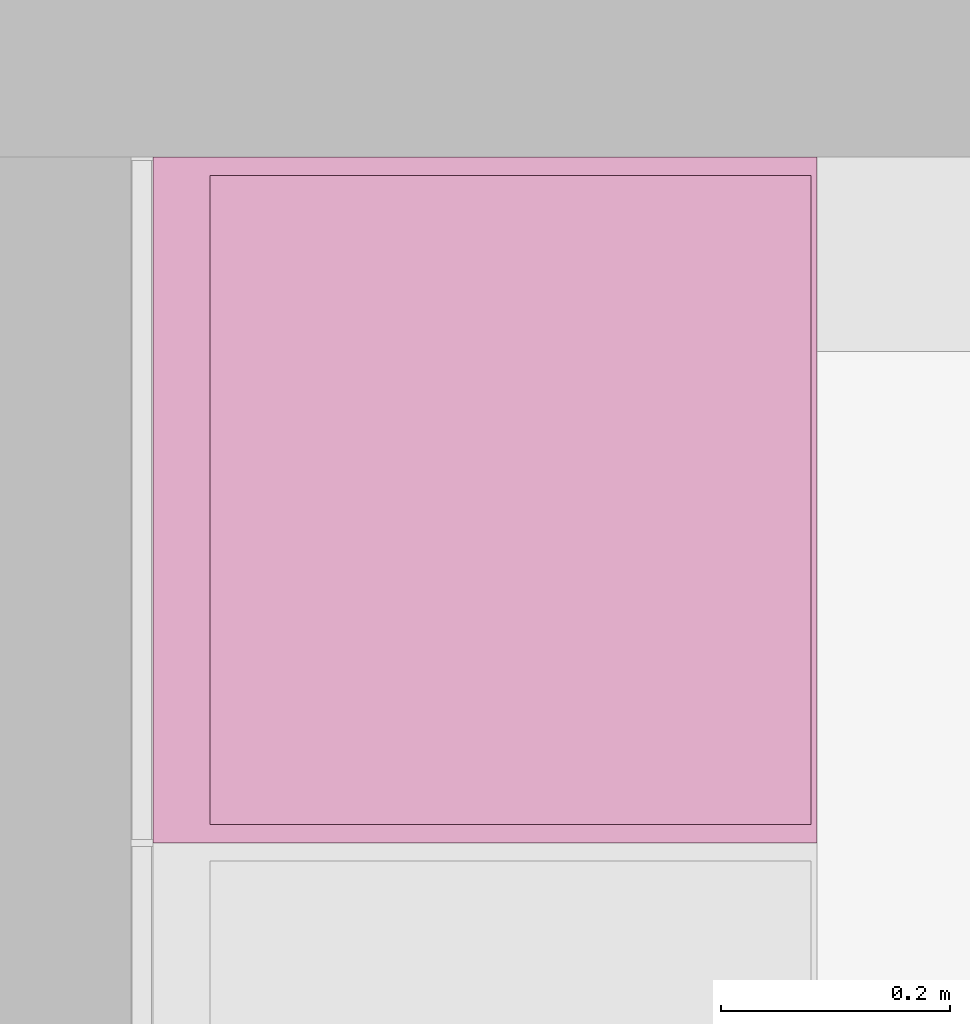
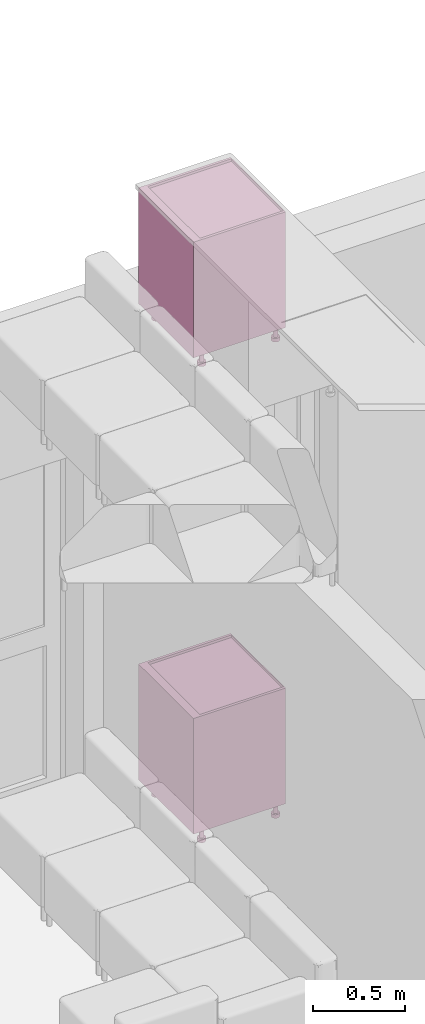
# One storey, part 83 of 125: 2 furnishings.
"""IFC2X3 building model written with IfcOpenShell, lengths in millimetres."""

from ifc_helpers import new_model, entity, si_unit, converted_unit, direction, frame, origin, place, context, subcontext, project, spatial, faceted_brep, source, transform, mapped, material, type_object, type_shapes, element, save


model = new_model("IFC2X3")

# Units and contexts
model_context = context("Model", 3, precision=0.01, world=origin(), true_north=direction((6.123233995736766e-17, 1.0)))
plan_context = context("Plan", 3, precision=0.01, world=origin(), true_north=direction((6.123233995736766e-17, 1.0)))
body_context = subcontext(model_context, "Body", "Model", "MODEL_VIEW")
ifc_project = project(units=[si_unit("LENGTHUNIT", "METRE", prefix="MILLI"), converted_unit("PLANEANGLEUNIT", "DEGREE", entity("IfcPlaneAngleMeasure", 0.017453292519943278), si_unit("PLANEANGLEUNIT", "RADIAN"), dimensions=[0, 0, 0, 0, 0, 0, 0]), si_unit("AREAUNIT", "SQUARE_METRE")], contexts=[model_context, plan_context])

# Site, building, storey, space
site_placement = place(None, origin())
site = spatial("IfcSite", under=ifc_project, at=site_placement, Name="Default", CompositionType="ELEMENT")
building_placement = place(site_placement, origin())
building = spatial("IfcBuilding", under=site, at=building_placement, CompositionType="ELEMENT")
storey_placement = place(building_placement, frame((0.0, 0.0, 3125.0)))
storey = spatial("IfcBuildingStorey", under=building, at=storey_placement, Name="2K", CompositionType="ELEMENT", Elevation=3125.0)
space_placement = place(storey_placement, origin())
space = spatial("IfcSpace", under=storey, at=space_placement, Name="2-3.2", CompositionType="ELEMENT", InteriorOrExteriorSpace="INTERNAL")

# Furnishings
ifc_material = material(Name="<Unnamed>")
furniture_type = type_object("IfcFurnitureType", Name="HR_Casework_Kitchen_Generic_Appliance_v1:Fridge", AssemblyPlace="NOTDEFINED", material=ifc_material)
shared_shape = source(origin(), body_context, "Body", "Brep", [
    faceted_brep([(305.7003264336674, -585.7846096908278, -3101.0), (310.6708891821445, -581.9705627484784, -3101.0), (300.70032643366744, -577.1243556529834, -3101.0), (297.32379306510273, -578.5229615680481, -3101.0), (299.91198351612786, -588.1822198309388, -3101.0), (303.59982137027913, -574.8994949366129, -3101.0), (314.4849361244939, -577.0, -3101.0), (305.82468208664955, -572.0, -3101.0), (307.2232880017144, -568.6234666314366, -3101.0), (316.8825462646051, -571.2116570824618, -3101.0), (307.70032643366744, -565.0, -3101.0), (317.7003264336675, -565.0, -3101.0), (307.2232880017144, -561.3765333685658, -3101.0), (316.88254626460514, -558.7883429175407, -3101.0), (305.82468208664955, -558.0, -3101.0), (314.484936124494, -553.0, -3101.0), (303.59982137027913, -555.1005050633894, -3101.0), (310.67088918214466, -548.0294372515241, -3101.0), (300.70032643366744, -552.875644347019, -3101.0), (305.7003264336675, -544.2153903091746, -3101.0), (297.32379306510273, -551.4770384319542, -3101.0), (299.91198351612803, -541.8177801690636, -3101.0), (293.7003264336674, -551.0, -3101.0), (293.70032643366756, -541.0, -3101.0), (290.07685980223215, -551.4770384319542, -3101.0), (287.488669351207, -541.8177801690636, -3101.0), (286.70032643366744, -552.875644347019, -3101.0), (281.7003264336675, -544.2153903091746, -3101.0), (283.80083149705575, -555.1005050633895, -3101.0), (276.7297636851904, -548.029437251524, -3101.0), (281.5759707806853, -558.0, -3101.0), (272.91571674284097, -553.0, -3101.0), (270.51810660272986, -558.7883429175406, -3101.0), (280.1773648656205, -561.3765333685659, -3101.0), (269.7003264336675, -565.0, -3101.0), (279.7003264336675, -565.0, -3101.0), (270.51810660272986, -571.2116570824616, -3101.0), (280.1773648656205, -568.6234666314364, -3101.0), (272.9157167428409, -577.0, -3101.0), (281.57597078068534, -572.0, -3101.0), (276.7297636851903, -581.9705627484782, -3101.0), (283.80083149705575, -574.8994949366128, -3101.0), (281.70032643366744, -585.7846096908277, -3101.0), (286.70032643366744, -577.1243556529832, -3101.0), (287.4886693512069, -588.1822198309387, -3101.0), (290.07685980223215, -578.5229615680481, -3101.0), (293.7003264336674, -589.0, -3101.0), (293.70032643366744, -579.0, -3101.0), (299.91198351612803, -541.8177801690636, -3125.0), (305.7003264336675, -544.2153903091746, -3125.0), (310.67088918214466, -548.0294372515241, -3125.0), (314.484936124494, -553.0, -3125.0), (316.88254626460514, -558.7883429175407, -3125.0), (317.7003264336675, -565.0, -3125.0), (316.8825462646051, -571.2116570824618, -3125.0), (314.4849361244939, -577.0, -3125.0), (310.6708891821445, -581.9705627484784, -3125.0), (305.7003264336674, -585.7846096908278, -3125.0), (299.91198351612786, -588.1822198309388, -3125.0), (293.7003264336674, -589.0, -3125.0), (287.4886693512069, -588.1822198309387, -3125.0), (281.70032643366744, -585.7846096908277, -3125.0), (276.7297636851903, -581.9705627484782, -3125.0), (272.9157167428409, -577.0, -3125.0), (270.51810660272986, -571.2116570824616, -3125.0), (269.7003264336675, -565.0, -3125.0), (270.51810660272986, -558.7883429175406, -3125.0), (272.91571674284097, -553.0, -3125.0), (276.7297636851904, -548.029437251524, -3125.0), (281.7003264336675, -544.2153903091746, -3125.0), (287.488669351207, -541.8177801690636, -3125.0), (293.70032643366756, -541.0, -3125.0), (297.32379306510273, -578.5229615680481, -3025.0), (300.70032643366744, -577.1243556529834, -3025.0), (303.59982137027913, -574.8994949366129, -3025.0), (305.8246820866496, -572.0, -3025.0), (307.2232880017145, -568.6234666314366, -3025.0), (307.70032643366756, -565.0, -3025.0), (307.2232880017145, -561.3765333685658, -3025.0), (305.8246820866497, -558.0, -3025.0), (303.5998213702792, -555.1005050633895, -3025.0), (300.70032643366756, -552.875644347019, -3025.0), (297.32379306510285, -551.4770384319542, -3025.0), (293.70032643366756, -551.0, -3025.0), (290.07685980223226, -551.4770384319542, -3025.0), (286.70032643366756, -552.875644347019, -3025.0), (283.80083149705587, -555.1005050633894, -3025.0), (281.5759707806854, -558.0, -3025.0), (280.1773648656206, -561.3765333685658, -3025.0), (279.70032643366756, -565.0, -3025.0), (280.1773648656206, -568.6234666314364, -3025.0), (281.5759707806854, -572.0, -3025.0), (283.8008314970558, -574.8994949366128, -3025.0), (286.7003264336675, -577.1243556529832, -3025.0), (290.07685980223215, -578.5229615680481, -3025.0), (293.70032643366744, -579.0, -3025.0)], [[[0, 1, 2]], [[0, 2, 3]], [[3, 4, 0]], [[2, 1, 5]], [[6, 5, 1]], [[7, 5, 6]], [[8, 7, 6]], [[8, 6, 9]], [[8, 9, 10]], [[10, 9, 11]], [[12, 10, 11]], [[12, 11, 13]], [[14, 12, 13]], [[14, 13, 15]], [[16, 14, 15]], [[15, 17, 16]], [[17, 18, 16]], [[18, 17, 19]], [[18, 19, 20]], [[21, 20, 19]], [[20, 21, 22]], [[22, 21, 23]], [[23, 24, 22]], [[24, 23, 25]], [[24, 25, 26]], [[27, 26, 25]], [[27, 28, 26]], [[27, 29, 28]], [[30, 28, 29]], [[31, 30, 29]], [[32, 30, 31]], [[33, 30, 32]], [[33, 32, 34]], [[34, 35, 33]], [[36, 35, 34]], [[36, 37, 35]], [[37, 36, 38]], [[39, 37, 38]], [[39, 38, 40]], [[39, 40, 41]], [[40, 42, 41]], [[41, 42, 43]], [[43, 42, 44]], [[44, 45, 43]], [[46, 45, 44]], [[4, 47, 46]], [[45, 46, 47]], [[4, 3, 47]], [[48, 49, 50, 51, 52, 53, 54, 55, 56, 57, 58, 59, 60, 61, 62, 63, 64, 65, 66, 67, 68, 69, 70, 71]], [[64, 36, 34, 65]], [[63, 38, 36, 64]], [[42, 40, 62, 61]], [[63, 62, 40, 38]], [[44, 42, 61, 60]], [[46, 44, 60, 59]], [[58, 4, 46, 59]], [[57, 0, 4, 58]], [[54, 53, 11, 9]], [[1, 0, 57, 56]], [[6, 55, 54, 9]], [[6, 1, 56, 55]], [[52, 13, 11, 53]], [[51, 15, 13, 52]], [[19, 17, 50, 49]], [[51, 50, 17, 15]], [[21, 19, 49, 48]], [[23, 21, 48, 71]], [[27, 69, 68, 29]], [[31, 67, 66, 32]], [[68, 67, 31, 29]], [[32, 66, 65, 34]], [[25, 70, 69, 27]], [[70, 25, 23, 71]], [[72, 73, 74, 75, 76, 77, 78, 79, 80, 81, 82, 83, 84, 85, 86, 87, 88, 89, 90, 91, 92, 93, 94, 95]], [[37, 39, 91, 90]], [[35, 37, 90, 89]], [[43, 45, 94, 93]], [[41, 43, 93, 92]], [[39, 41, 92, 91]], [[47, 95, 94, 45]], [[2, 5, 74, 73]], [[3, 2, 73, 72]], [[8, 10, 77, 76]], [[7, 8, 76, 75]], [[5, 7, 75, 74]], [[3, 72, 95, 47]], [[79, 78, 12, 14]], [[78, 77, 10, 12]], [[80, 16, 18, 81]], [[16, 80, 79, 14]], [[81, 18, 20, 82]], [[22, 83, 82, 20]], [[26, 28, 86, 85]], [[24, 26, 85, 84]], [[33, 35, 89, 88]], [[30, 33, 88, 87]], [[28, 30, 87, 86]], [[24, 84, 83, 22]]]),
    faceted_brep([(-192.29967356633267, -585.7846096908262, -3101.0), (-187.3291108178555, -581.9705627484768, -3101.0), (-197.29967356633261, -577.1243556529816, -3101.0), (-200.67620693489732, -578.5229615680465, -3101.0), (-198.08801648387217, -588.1822198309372, -3101.0), (-194.40017862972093, -574.8994949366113, -3101.0), (-183.51506387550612, -577.0, -3101.0), (-192.17531791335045, -572.0, -3101.0), (-190.77671199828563, -568.6234666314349, -3101.0), (-181.11745373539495, -571.2116570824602, -3101.0), (-190.29967356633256, -565.0, -3101.0), (-180.29967356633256, -565.0, -3101.0), (-190.77671199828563, -561.3765333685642, -3101.0), (-181.11745373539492, -558.788342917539, -3101.0), (-192.17531791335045, -558.0, -3101.0), (-183.515063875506, -553.0, -3101.0), (-194.40017862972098, -555.1005050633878, -3101.0), (-187.3291108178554, -548.0294372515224, -3101.0), (-197.29967356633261, -552.8756443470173, -3101.0), (-192.29967356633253, -544.215390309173, -3101.0), (-200.67620693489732, -551.4770384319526, -3101.0), (-198.08801648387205, -541.8177801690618, -3101.0), (-204.29967356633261, -551.0, -3101.0), (-204.29967356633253, -541.0, -3101.0), (-207.92314019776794, -551.4770384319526, -3101.0), (-210.51133064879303, -541.8177801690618, -3101.0), (-211.29967356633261, -552.8756443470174, -3101.0), (-216.29967356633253, -544.215390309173, -3101.0), (-214.19916850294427, -555.1005050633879, -3101.0), (-221.27023631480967, -548.0294372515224, -3101.0), (-216.42402921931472, -558.0, -3101.0), (-225.08428325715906, -553.0, -3101.0), (-227.48189339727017, -558.788342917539, -3101.0), (-217.8226351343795, -561.3765333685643, -3101.0), (-228.2996735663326, -565.0, -3101.0), (-218.29967356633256, -565.0, -3101.0), (-227.48189339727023, -571.21165708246, -3101.0), (-217.8226351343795, -568.6234666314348, -3101.0), (-225.08428325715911, -577.0, -3101.0), (-216.42402921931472, -572.0, -3101.0), (-221.27023631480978, -581.9705627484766, -3101.0), (-214.19916850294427, -574.8994949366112, -3101.0), (-216.29967356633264, -585.784609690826, -3101.0), (-211.29967356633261, -577.1243556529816, -3101.0), (-210.51133064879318, -588.1822198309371, -3101.0), (-207.9231401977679, -578.5229615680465, -3101.0), (-204.2996735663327, -589.0, -3101.0), (-204.29967356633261, -579.0, -3101.0), (-198.08801648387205, -541.8177801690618, -3125.0), (-192.29967356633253, -544.215390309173, -3125.0), (-187.3291108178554, -548.0294372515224, -3125.0), (-183.515063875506, -553.0, -3125.0), (-181.11745373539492, -558.788342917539, -3125.0), (-180.29967356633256, -565.0, -3125.0), (-181.11745373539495, -571.2116570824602, -3125.0), (-183.51506387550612, -577.0, -3125.0), (-187.3291108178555, -581.9705627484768, -3125.0), (-192.29967356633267, -585.7846096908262, -3125.0), (-198.08801648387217, -588.1822198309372, -3125.0), (-204.2996735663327, -589.0, -3125.0), (-210.51133064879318, -588.1822198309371, -3125.0), (-216.29967356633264, -585.784609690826, -3125.0), (-221.27023631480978, -581.9705627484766, -3125.0), (-225.08428325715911, -577.0, -3125.0), (-227.48189339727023, -571.21165708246, -3125.0), (-228.2996735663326, -565.0, -3125.0), (-227.48189339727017, -558.788342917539, -3125.0), (-225.08428325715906, -553.0, -3125.0), (-221.27023631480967, -548.0294372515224, -3125.0), (-216.29967356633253, -544.215390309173, -3125.0), (-210.51133064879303, -541.8177801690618, -3125.0), (-204.29967356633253, -541.0, -3125.0), (-200.67620693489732, -578.5229615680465, -3025.0), (-197.29967356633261, -577.1243556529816, -3025.0), (-194.40017862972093, -574.8994949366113, -3025.0), (-192.17531791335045, -572.0, -3025.0), (-190.77671199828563, -568.6234666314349, -3025.0), (-190.29967356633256, -565.0, -3025.0), (-190.77671199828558, -561.3765333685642, -3025.0), (-192.1753179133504, -558.0, -3025.0), (-194.40017862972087, -555.1005050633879, -3025.0), (-197.29967356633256, -552.8756443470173, -3025.0), (-200.67620693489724, -551.4770384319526, -3025.0), (-204.29967356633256, -551.0, -3025.0), (-207.92314019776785, -551.4770384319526, -3025.0), (-211.29967356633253, -552.8756443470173, -3025.0), (-214.1991685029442, -555.1005050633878, -3025.0), (-216.4240292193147, -558.0, -3025.0), (-217.8226351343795, -561.3765333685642, -3025.0), (-218.29967356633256, -565.0, -3025.0), (-217.8226351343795, -568.6234666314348, -3025.0), (-216.42402921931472, -572.0, -3025.0), (-214.19916850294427, -574.8994949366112, -3025.0), (-211.2996735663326, -577.1243556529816, -3025.0), (-207.9231401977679, -578.5229615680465, -3025.0), (-204.29967356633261, -579.0, -3025.0)], [[[0, 1, 2]], [[0, 2, 3]], [[3, 4, 0]], [[2, 1, 5]], [[6, 5, 1]], [[7, 5, 6]], [[8, 7, 6]], [[8, 6, 9]], [[8, 9, 10]], [[10, 9, 11]], [[12, 10, 11]], [[12, 11, 13]], [[14, 12, 13]], [[14, 13, 15]], [[16, 14, 15]], [[15, 17, 16]], [[17, 18, 16]], [[18, 17, 19]], [[18, 19, 20]], [[21, 20, 19]], [[20, 21, 22]], [[22, 21, 23]], [[23, 24, 22]], [[24, 23, 25]], [[24, 25, 26]], [[27, 26, 25]], [[27, 28, 26]], [[27, 29, 28]], [[30, 28, 29]], [[31, 30, 29]], [[32, 30, 31]], [[33, 30, 32]], [[33, 32, 34]], [[34, 35, 33]], [[36, 35, 34]], [[36, 37, 35]], [[37, 36, 38]], [[39, 37, 38]], [[39, 38, 40]], [[39, 40, 41]], [[40, 42, 41]], [[41, 42, 43]], [[43, 42, 44]], [[44, 45, 43]], [[46, 45, 44]], [[4, 47, 46]], [[45, 46, 47]], [[4, 3, 47]], [[48, 49, 50, 51, 52, 53, 54, 55, 56, 57, 58, 59, 60, 61, 62, 63, 64, 65, 66, 67, 68, 69, 70, 71]], [[64, 36, 34, 65]], [[63, 38, 36, 64]], [[42, 40, 62, 61]], [[63, 62, 40, 38]], [[44, 42, 61, 60]], [[46, 44, 60, 59]], [[58, 4, 46, 59]], [[57, 0, 4, 58]], [[54, 53, 11, 9]], [[1, 0, 57, 56]], [[6, 55, 54, 9]], [[6, 1, 56, 55]], [[52, 13, 11, 53]], [[51, 15, 13, 52]], [[19, 17, 50, 49]], [[51, 50, 17, 15]], [[21, 19, 49, 48]], [[23, 21, 48, 71]], [[27, 69, 68, 29]], [[31, 67, 66, 32]], [[68, 67, 31, 29]], [[32, 66, 65, 34]], [[25, 70, 69, 27]], [[70, 25, 23, 71]], [[72, 73, 74, 75, 76, 77, 78, 79, 80, 81, 82, 83, 84, 85, 86, 87, 88, 89, 90, 91, 92, 93, 94, 95]], [[37, 39, 91, 90]], [[35, 37, 90, 89]], [[43, 45, 94, 93]], [[41, 43, 93, 92]], [[39, 41, 92, 91]], [[47, 95, 94, 45]], [[2, 5, 74, 73]], [[3, 2, 73, 72]], [[8, 10, 77, 76]], [[7, 8, 76, 75]], [[5, 7, 75, 74]], [[3, 72, 95, 47]], [[79, 78, 12, 14]], [[78, 77, 10, 12]], [[80, 16, 18, 81]], [[16, 80, 79, 14]], [[81, 18, 20, 82]], [[22, 83, 82, 20]], [[26, 28, 86, 85]], [[24, 26, 85, 84]], [[33, 35, 89, 88]], [[30, 33, 88, 87]], [[28, 30, 87, 86]], [[24, 84, 83, 22]]]),
    faceted_brep([(305.70032643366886, -120.78460969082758, -3101.0), (310.670889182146, -116.97056274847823, -3101.0), (300.7003264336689, -112.12435565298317, -3101.0), (297.3237930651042, -113.52296156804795, -3101.0), (299.91198351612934, -123.18221983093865, -3101.0), (303.5998213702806, -109.8994949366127, -3101.0), (314.48493612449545, -112.0, -3101.0), (305.824682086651, -107.0, -3101.0), (307.2232880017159, -103.62346663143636, -3101.0), (316.88254626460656, -106.21165708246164, -3101.0), (307.700326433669, -100.0, -3101.0), (317.700326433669, -100.0, -3101.0), (307.2232880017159, -96.3765333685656, -3101.0), (316.8825462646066, -93.78834291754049, -3101.0), (305.824682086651, -93.0, -3101.0), (314.4849361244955, -88.0, -3101.0), (303.5998213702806, -90.10050506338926, -3101.0), (310.67088918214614, -83.02943725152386, -3101.0), (300.7003264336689, -87.8756443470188, -3101.0), (305.700326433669, -79.21539030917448, -3101.0), (297.3237930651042, -86.477038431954, -3101.0), (299.9119835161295, -76.81778016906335, -3101.0), (293.70032643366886, -86.0, -3101.0), (293.70032643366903, -76.0, -3101.0), (290.0768598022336, -86.47703843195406, -3101.0), (287.4886693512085, -76.81778016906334, -3101.0), (286.7003264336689, -87.87564434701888, -3101.0), (281.700326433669, -79.21539030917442, -3101.0), (283.8008314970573, -90.10050506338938, -3101.0), (276.72976368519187, -83.0294372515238, -3101.0), (281.5759707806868, -93.0, -3101.0), (272.91571674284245, -88.0, -3101.0), (270.51810660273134, -93.78834291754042, -3101.0), (280.177364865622, -96.37653336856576, -3101.0), (269.700326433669, -100.0, -3101.0), (279.700326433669, -100.0, -3101.0), (270.51810660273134, -106.2116570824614, -3101.0), (280.177364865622, -103.62346663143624, -3101.0), (272.9157167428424, -112.0, -3101.0), (281.5759707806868, -107.0, -3101.0), (276.72976368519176, -116.97056274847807, -3101.0), (283.8008314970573, -109.89949493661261, -3101.0), (281.7003264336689, -120.78460969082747, -3101.0), (286.7003264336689, -112.1243556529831, -3101.0), (287.4886693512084, -123.1822198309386, -3101.0), (290.0768598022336, -113.52296156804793, -3101.0), (293.70032643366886, -124.0, -3101.0), (293.7003264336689, -114.0, -3101.0), (299.9119835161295, -76.81778016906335, -3125.0), (305.700326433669, -79.21539030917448, -3125.0), (310.67088918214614, -83.02943725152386, -3125.0), (314.4849361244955, -88.0, -3125.0), (316.8825462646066, -93.78834291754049, -3125.0), (317.700326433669, -100.0, -3125.0), (316.88254626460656, -106.21165708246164, -3125.0), (314.48493612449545, -112.0, -3125.0), (310.670889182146, -116.97056274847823, -3125.0), (305.70032643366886, -120.78460969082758, -3125.0), (299.91198351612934, -123.18221983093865, -3125.0), (293.70032643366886, -124.0, -3125.0), (287.4886693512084, -123.1822198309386, -3125.0), (281.7003264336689, -120.78460969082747, -3125.0), (276.72976368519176, -116.97056274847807, -3125.0), (272.9157167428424, -112.0, -3125.0), (270.51810660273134, -106.2116570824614, -3125.0), (269.700326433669, -100.0, -3125.0), (270.51810660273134, -93.78834291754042, -3125.0), (272.91571674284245, -88.0, -3125.0), (276.72976368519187, -83.0294372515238, -3125.0), (281.700326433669, -79.21539030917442, -3125.0), (287.4886693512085, -76.81778016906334, -3125.0), (293.70032643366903, -76.0, -3125.0), (297.32379306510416, -113.52296156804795, -3025.0), (300.70032643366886, -112.12435565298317, -3025.0), (303.59982137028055, -109.8994949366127, -3025.0), (305.824682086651, -107.0, -3025.0), (307.22328800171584, -103.62346663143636, -3025.0), (307.700326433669, -100.0, -3025.0), (307.2232880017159, -96.3765333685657, -3025.0), (305.82468208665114, -93.0, -3025.0), (303.5998213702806, -90.10050506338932, -3025.0), (300.700326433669, -87.87564434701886, -3025.0), (297.32379306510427, -86.47703843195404, -3025.0), (293.700326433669, -86.0, -3025.0), (290.0768598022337, -86.47703843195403, -3025.0), (286.700326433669, -87.87564434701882, -3025.0), (283.8008314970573, -90.1005050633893, -3025.0), (281.5759707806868, -93.0, -3025.0), (280.177364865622, -96.37653336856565, -3025.0), (279.700326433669, -100.0, -3025.0), (280.177364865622, -103.62346663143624, -3025.0), (281.5759707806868, -107.0, -3025.0), (283.80083149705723, -109.89949493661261, -3025.0), (286.7003264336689, -112.1243556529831, -3025.0), (290.07685980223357, -113.52296156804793, -3025.0), (293.70032643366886, -114.0, -3025.0)], [[[0, 1, 2]], [[0, 2, 3]], [[3, 4, 0]], [[2, 1, 5]], [[6, 5, 1]], [[7, 5, 6]], [[8, 7, 6]], [[8, 6, 9]], [[8, 9, 10]], [[10, 9, 11]], [[12, 10, 11]], [[12, 11, 13]], [[14, 12, 13]], [[14, 13, 15]], [[16, 14, 15]], [[15, 17, 16]], [[17, 18, 16]], [[18, 17, 19]], [[18, 19, 20]], [[21, 20, 19]], [[20, 21, 22]], [[22, 21, 23]], [[23, 24, 22]], [[24, 23, 25]], [[24, 25, 26]], [[27, 26, 25]], [[27, 28, 26]], [[27, 29, 28]], [[30, 28, 29]], [[31, 30, 29]], [[32, 30, 31]], [[33, 30, 32]], [[33, 32, 34]], [[34, 35, 33]], [[36, 35, 34]], [[36, 37, 35]], [[37, 36, 38]], [[39, 37, 38]], [[39, 38, 40]], [[39, 40, 41]], [[40, 42, 41]], [[41, 42, 43]], [[43, 42, 44]], [[44, 45, 43]], [[46, 45, 44]], [[4, 47, 46]], [[45, 46, 47]], [[4, 3, 47]], [[48, 49, 50, 51, 52, 53, 54, 55, 56, 57, 58, 59, 60, 61, 62, 63, 64, 65, 66, 67, 68, 69, 70, 71]], [[64, 36, 34, 65]], [[63, 38, 36, 64]], [[42, 40, 62, 61]], [[63, 62, 40, 38]], [[44, 42, 61, 60]], [[46, 44, 60, 59]], [[58, 4, 46, 59]], [[57, 0, 4, 58]], [[54, 53, 11, 9]], [[1, 0, 57, 56]], [[6, 55, 54, 9]], [[6, 1, 56, 55]], [[52, 13, 11, 53]], [[51, 15, 13, 52]], [[19, 17, 50, 49]], [[51, 50, 17, 15]], [[21, 19, 49, 48]], [[23, 21, 48, 71]], [[27, 69, 68, 29]], [[31, 67, 66, 32]], [[68, 67, 31, 29]], [[32, 66, 65, 34]], [[25, 70, 69, 27]], [[70, 25, 23, 71]], [[72, 73, 74, 75, 76, 77, 78, 79, 80, 81, 82, 83, 84, 85, 86, 87, 88, 89, 90, 91, 92, 93, 94, 95]], [[37, 39, 91, 90]], [[35, 37, 90, 89]], [[43, 45, 94, 93]], [[41, 43, 93, 92]], [[39, 41, 92, 91]], [[47, 95, 94, 45]], [[2, 5, 74, 73]], [[3, 2, 73, 72]], [[8, 10, 77, 76]], [[7, 8, 76, 75]], [[5, 7, 75, 74]], [[3, 72, 95, 47]], [[79, 78, 12, 14]], [[78, 77, 10, 12]], [[80, 16, 18, 81]], [[16, 80, 79, 14]], [[81, 18, 20, 82]], [[22, 83, 82, 20]], [[26, 28, 86, 85]], [[24, 26, 85, 84]], [[33, 35, 89, 88]], [[30, 33, 88, 87]], [[28, 30, 87, 86]], [[24, 84, 83, 22]]]),
    faceted_brep([(-192.299673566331, -120.78460969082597, -3101.0), (-187.3291108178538, -116.97056274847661, -3101.0), (-197.29967356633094, -112.12435565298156, -3101.0), (-200.67620693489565, -113.52296156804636, -3101.0), (-198.0880164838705, -123.18221983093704, -3101.0), (-194.40017862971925, -109.89949493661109, -3101.0), (-183.5150638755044, -112.0, -3101.0), (-192.17531791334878, -107.0, -3101.0), (-190.77671199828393, -103.62346663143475, -3101.0), (-181.11745373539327, -106.21165708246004, -3101.0), (-190.29967356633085, -100.0, -3101.0), (-180.29967356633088, -100.0, -3101.0), (-190.77671199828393, -96.376533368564, -3101.0), (-181.11745373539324, -93.78834291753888, -3101.0), (-192.17531791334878, -93.0, -3101.0), (-183.51506387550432, -88.0, -3101.0), (-194.40017862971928, -90.10050506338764, -3101.0), (-187.32911081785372, -83.02943725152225, -3101.0), (-197.29967356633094, -87.8756443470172, -3101.0), (-192.29967356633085, -79.21539030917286, -3101.0), (-200.67620693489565, -86.4770384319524, -3101.0), (-198.08801648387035, -76.81778016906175, -3101.0), (-204.29967356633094, -86.0, -3101.0), (-204.29967356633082, -76.0, -3101.0), (-207.92314019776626, -86.47703843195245, -3101.0), (-210.51133064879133, -76.81778016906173, -3101.0), (-211.29967356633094, -87.87564434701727, -3101.0), (-216.29967356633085, -79.21539030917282, -3101.0), (-214.19916850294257, -90.10050506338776, -3101.0), (-221.270236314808, -83.0294372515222, -3101.0), (-216.424029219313, -93.0, -3101.0), (-225.08428325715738, -88.0, -3101.0), (-227.4818933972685, -93.78834291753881, -3101.0), (-217.82263513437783, -96.37653336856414, -3101.0), (-228.29967356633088, -100.0, -3101.0), (-218.29967356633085, -100.0, -3101.0), (-227.48189339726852, -106.2116570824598, -3101.0), (-217.82263513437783, -103.62346663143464, -3101.0), (-225.08428325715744, -112.0, -3101.0), (-216.424029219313, -107.0, -3101.0), (-221.27023631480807, -116.97056274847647, -3101.0), (-214.19916850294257, -109.899494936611, -3101.0), (-216.29967356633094, -120.78460969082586, -3101.0), (-211.29967356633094, -112.12435565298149, -3101.0), (-210.51133064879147, -123.18221983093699, -3101.0), (-207.9231401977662, -113.52296156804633, -3101.0), (-204.299673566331, -124.0, -3101.0), (-204.29967356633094, -114.0, -3101.0), (-198.08801648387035, -76.81778016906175, -3125.0), (-192.29967356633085, -79.21539030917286, -3125.0), (-187.32911081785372, -83.02943725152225, -3125.0), (-183.51506387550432, -88.0, -3125.0), (-181.11745373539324, -93.78834291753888, -3125.0), (-180.29967356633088, -100.0, -3125.0), (-181.11745373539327, -106.21165708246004, -3125.0), (-183.5150638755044, -112.0, -3125.0), (-187.3291108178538, -116.97056274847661, -3125.0), (-192.299673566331, -120.78460969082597, -3125.0), (-198.0880164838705, -123.18221983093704, -3125.0), (-204.299673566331, -124.0, -3125.0), (-210.51133064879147, -123.18221983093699, -3125.0), (-216.29967356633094, -120.78460969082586, -3125.0), (-221.27023631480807, -116.97056274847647, -3125.0), (-225.08428325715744, -112.0, -3125.0), (-227.48189339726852, -106.2116570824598, -3125.0), (-228.29967356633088, -100.0, -3125.0), (-227.4818933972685, -93.78834291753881, -3125.0), (-225.08428325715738, -88.0, -3125.0), (-221.270236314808, -83.0294372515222, -3125.0), (-216.29967356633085, -79.21539030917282, -3125.0), (-210.51133064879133, -76.81778016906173, -3125.0), (-204.29967356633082, -76.0, -3125.0), (-200.67620693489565, -113.52296156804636, -3025.0), (-197.29967356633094, -112.12435565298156, -3025.0), (-194.40017862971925, -109.89949493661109, -3025.0), (-192.17531791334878, -107.0, -3025.0), (-190.77671199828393, -103.62346663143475, -3025.0), (-190.29967356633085, -100.0, -3025.0), (-190.7767119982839, -96.3765333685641, -3025.0), (-192.1753179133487, -93.0, -3025.0), (-194.4001786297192, -90.10050506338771, -3025.0), (-197.29967356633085, -87.87564434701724, -3025.0), (-200.67620693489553, -86.47703843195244, -3025.0), (-204.29967356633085, -86.0, -3025.0), (-207.92314019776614, -86.47703843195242, -3025.0), (-211.29967356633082, -87.87564434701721, -3025.0), (-214.1991685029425, -90.10050506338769, -3025.0), (-216.42402921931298, -93.0, -3025.0), (-217.82263513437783, -96.37653336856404, -3025.0), (-218.29967356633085, -100.0, -3025.0), (-217.82263513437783, -103.62346663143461, -3025.0), (-216.424029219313, -107.0, -3025.0), (-214.19916850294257, -109.899494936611, -3025.0), (-211.29967356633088, -112.12435565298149, -3025.0), (-207.9231401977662, -113.52296156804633, -3025.0), (-204.29967356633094, -114.0, -3025.0)], [[[0, 1, 2]], [[0, 2, 3]], [[3, 4, 0]], [[2, 1, 5]], [[6, 5, 1]], [[7, 5, 6]], [[8, 7, 6]], [[8, 6, 9]], [[8, 9, 10]], [[10, 9, 11]], [[12, 10, 11]], [[12, 11, 13]], [[14, 12, 13]], [[14, 13, 15]], [[16, 14, 15]], [[15, 17, 16]], [[17, 18, 16]], [[18, 17, 19]], [[18, 19, 20]], [[21, 20, 19]], [[20, 21, 22]], [[22, 21, 23]], [[23, 24, 22]], [[24, 23, 25]], [[24, 25, 26]], [[27, 26, 25]], [[27, 28, 26]], [[27, 29, 28]], [[30, 28, 29]], [[31, 30, 29]], [[32, 30, 31]], [[33, 30, 32]], [[33, 32, 34]], [[34, 35, 33]], [[36, 35, 34]], [[36, 37, 35]], [[37, 36, 38]], [[39, 37, 38]], [[39, 38, 40]], [[39, 40, 41]], [[40, 42, 41]], [[41, 42, 43]], [[43, 42, 44]], [[44, 45, 43]], [[46, 45, 44]], [[4, 47, 46]], [[45, 46, 47]], [[4, 3, 47]], [[48, 49, 50, 51, 52, 53, 54, 55, 56, 57, 58, 59, 60, 61, 62, 63, 64, 65, 66, 67, 68, 69, 70, 71]], [[64, 36, 34, 65]], [[63, 38, 36, 64]], [[42, 40, 62, 61]], [[63, 62, 40, 38]], [[44, 42, 61, 60]], [[46, 44, 60, 59]], [[58, 4, 46, 59]], [[57, 0, 4, 58]], [[54, 53, 11, 9]], [[1, 0, 57, 56]], [[6, 55, 54, 9]], [[6, 1, 56, 55]], [[52, 13, 11, 53]], [[51, 15, 13, 52]], [[19, 17, 50, 49]], [[51, 50, 17, 15]], [[21, 19, 49, 48]], [[23, 21, 48, 71]], [[27, 69, 68, 29]], [[31, 67, 66, 32]], [[68, 67, 31, 29]], [[32, 66, 65, 34]], [[25, 70, 69, 27]], [[70, 25, 23, 71]], [[72, 73, 74, 75, 76, 77, 78, 79, 80, 81, 82, 83, 84, 85, 86, 87, 88, 89, 90, 91, 92, 93, 94, 95]], [[37, 39, 91, 90]], [[35, 37, 90, 89]], [[43, 45, 94, 93]], [[41, 43, 93, 92]], [[39, 41, 92, 91]], [[47, 95, 94, 45]], [[2, 5, 74, 73]], [[3, 2, 73, 72]], [[8, 10, 77, 76]], [[7, 8, 76, 75]], [[5, 7, 75, 74]], [[3, 72, 95, 47]], [[79, 78, 12, 14]], [[78, 77, 10, 12]], [[80, 16, 18, 81]], [[16, 80, 79, 14]], [[81, 18, 20, 82]], [[22, 83, 82, 20]], [[26, 28, 86, 85]], [[24, 26, 85, 84]], [[33, 35, 89, 88]], [[30, 33, 88, 87]], [[28, 30, 87, 86]], [[24, 84, 83, 22]]]),
    faceted_brep([(328.70032643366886, -19.0, -3009.0), (-239.2996735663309, -19.0, -3009.0), (-239.29967356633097, -595.0, -3009.0), (328.70032643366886, -595.0, -3009.0), (328.70032643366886, -19.0, -3025.0), (328.70032643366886, -595.0, -3025.0), (-239.29967356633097, -595.0, -3025.0), (-239.29967356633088, -19.0, -3025.0)], [[[0, 1, 2, 3]], [[4, 5, 6, 7]], [[1, 0, 4, 7]], [[2, 1, 7, 6]], [[3, 2, 6, 5]], [[0, 3, 5, 4]]]),
    faceted_brep([(-255.29967356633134, -19.0, -2255.0), (-255.2996735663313, -600.0, -2255.0), (344.7003264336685, -600.0, -2255.0), (344.7003264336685, -19.0, -2255.0), (328.70032643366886, -19.0, -2255.0), (328.70032643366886, -595.0, -2255.0), (-239.2996735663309, -595.0, -2255.0), (-239.2996735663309, -19.0, -2255.0), (-255.29967356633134, -19.0, -3025.0), (-239.2996735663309, -19.0, -3025.0), (-239.29967356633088, -595.0, -3025.0), (328.70032643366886, -595.0, -3025.0), (328.70032643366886, -19.0, -3025.0), (344.7003264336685, -19.0, -3025.0), (344.7003264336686, -600.0, -3025.0), (-255.2996735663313, -600.0, -3025.0)], [[[0, 1, 2, 3, 4, 5, 6, 7]], [[8, 9, 10, 11, 12, 13, 14, 15]], [[1, 0, 8, 15]], [[0, 7, 9, 8]], [[7, 6, 10, 9]], [[5, 4, 12, 11]], [[4, 3, 13, 12]], [[3, 2, 14, 13]], [[2, 1, 15, 14]], [[6, 5, 11, 10]]]),
    faceted_brep([(328.70032643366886, -69.0, -2255.0), (328.70032643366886, -19.0, -2255.0), (-239.29967356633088, -19.0, -2255.0), (-239.29967356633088, -69.0, -2255.0), (328.70032643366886, -69.0, -2271.0), (-239.29967356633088, -69.0, -2271.0), (-239.29967356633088, -19.0, -2271.0), (328.70032643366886, -19.0, -2271.0)], [[[0, 1, 2, 3]], [[4, 5, 6, 7]], [[0, 3, 5, 4]], [[3, 2, 6, 5]], [[2, 1, 7, 6]], [[1, 0, 4, 7]]]),
    faceted_brep([(328.7003264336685, -19.0, -2271.0), (-239.29967356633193, -19.0, -2271.0), (-239.2996735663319, -595.0, -2271.0), (328.7003264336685, -595.0, -2271.0), (328.7003264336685, -19.0, -3009.0), (328.7003264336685, -595.0, -3009.0), (-239.2996735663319, -595.0, -3009.0), (-239.2996735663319, -19.0, -3009.0)], [[[0, 1, 2, 3]], [[4, 5, 6, 7]], [[1, 0, 4, 7]], [[2, 1, 7, 6]], [[3, 2, 6, 5]], [[0, 3, 5, 4]]]),
])
type_shapes(furniture_type, [shared_shape])
for number, where, z_axis, x_axis, name in (
    (1, (10150.0, 15055.299673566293, 3125.0), (0.0, 0.0, 1.0), (0.0, 1.0, 0.0), "HR_Casework_Kitchen_Generic_Appliance_v1:Fridge"),
    (2, (10150.0, 15055.299673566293, 6295.0), (0.0, 0.0, 1.0), (0.0, 1.0, 0.0), "HR_Casework_Kitchen_Generic_Appliance_v1:Fridge"),
):
    element("IfcFurnishingElement", number, at=place(space_placement, frame(where, z_axis=z_axis, x_axis=x_axis)), inside=space, type_object=furniture_type, material=ifc_material, Name=name, ObjectType="HR_Casework_Kitchen_Generic_Appliance_v1:Fridge", context=body_context, shape_type="MappedRepresentation", body=[
        mapped(shared_shape, transform((0.0, 0.0, 0.0), scale=1.0)),
    ])

save(model, "model.ifc")
